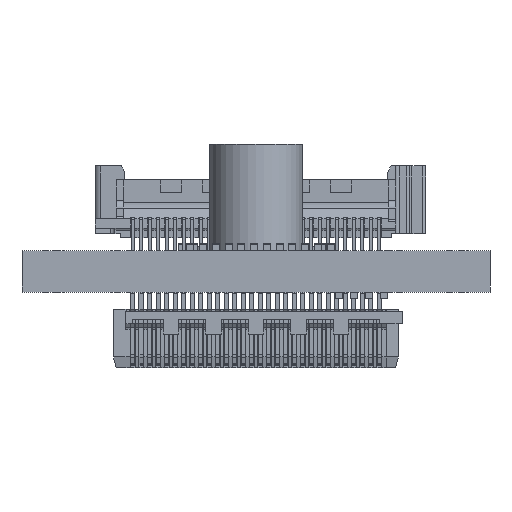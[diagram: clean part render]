
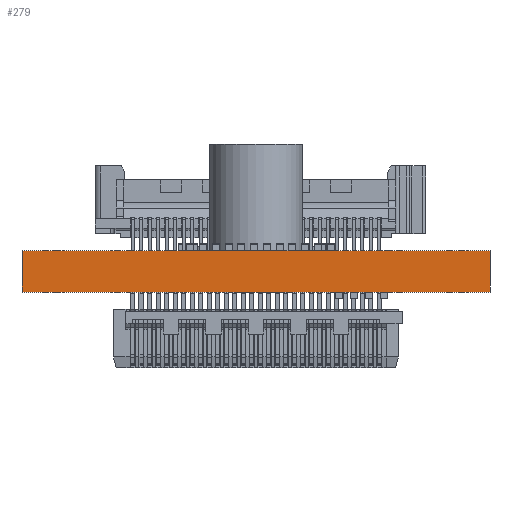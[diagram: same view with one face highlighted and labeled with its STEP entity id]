
A CAD part, front view. The second image highlights one B-rep face of the part: STEP entity #279.
In plain terms, the highlighted planar face has unit normal (0, -1, 0).
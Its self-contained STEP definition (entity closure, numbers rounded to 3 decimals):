
#181 = EDGE_CURVE('',#182,#184,#186,.T.);
#182 = VERTEX_POINT('',#183);
#183 = CARTESIAN_POINT('',(0.,0.,
    0.));
#184 = VERTEX_POINT('',#185);
#185 = CARTESIAN_POINT('',(0.,0.,
    1.951));
#186 = LINE('',#187,#188);
#187 = CARTESIAN_POINT('',(0.,0.,
    0.));
#188 = VECTOR('',#189,1.);
#189 = DIRECTION('',(0.,0.,1.));
#254 = VERTEX_POINT('',#255);
#255 = CARTESIAN_POINT('',(22.,0.,
    1.951));
#261 = EDGE_CURVE('',#262,#254,#264,.T.);
#262 = VERTEX_POINT('',#263);
#263 = CARTESIAN_POINT('',(22.,0.,0.)
  );
#264 = LINE('',#265,#266);
#265 = CARTESIAN_POINT('',(22.,0.,0.)
  );
#266 = VECTOR('',#267,1.);
#267 = DIRECTION('',(0.,0.,1.));
#279 = ADVANCED_FACE('',(#280),#296,.T.);
#280 = FACE_BOUND('',#281,.T.);
#281 = EDGE_LOOP('',(#282,#283,#289,#290));
#282 = ORIENTED_EDGE('',*,*,#261,.T.);
#283 = ORIENTED_EDGE('',*,*,#284,.T.);
#284 = EDGE_CURVE('',#254,#184,#285,.T.);
#285 = LINE('',#286,#287);
#286 = CARTESIAN_POINT('',(22.,0.,
    1.951));
#287 = VECTOR('',#288,1.);
#288 = DIRECTION('',(-1.,0.,0.));
#289 = ORIENTED_EDGE('',*,*,#181,.F.);
#290 = ORIENTED_EDGE('',*,*,#291,.F.);
#291 = EDGE_CURVE('',#262,#182,#292,.T.);
#292 = LINE('',#293,#294);
#293 = CARTESIAN_POINT('',(22.,0.,0.)
  );
#294 = VECTOR('',#295,1.);
#295 = DIRECTION('',(-1.,0.,0.));
#296 = PLANE('',#297);
#297 = AXIS2_PLACEMENT_3D('',#298,#299,#300);
#298 = CARTESIAN_POINT('',(22.,0.,0.)
  );
#299 = DIRECTION('',(0.,-1.,0.));
#300 = DIRECTION('',(-1.,0.,0.));
